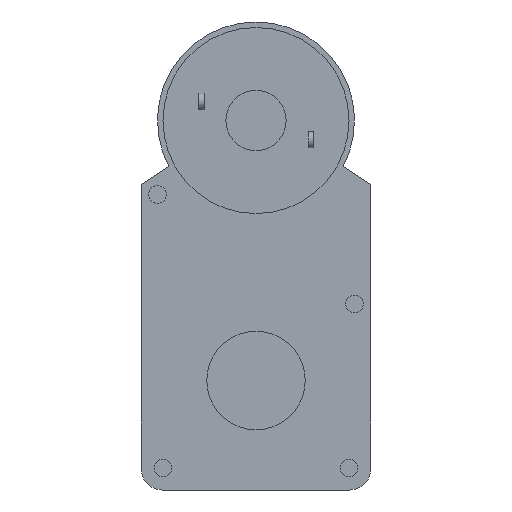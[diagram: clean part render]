
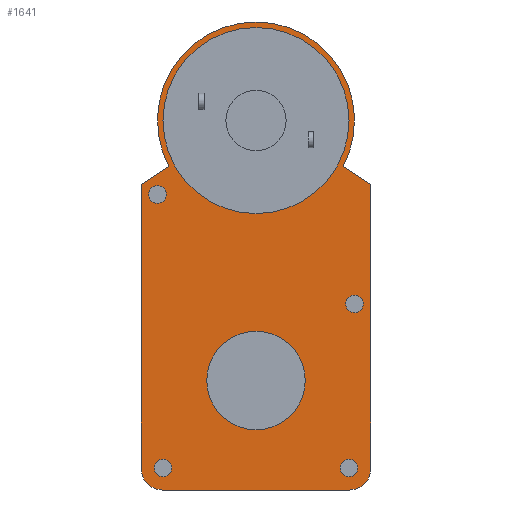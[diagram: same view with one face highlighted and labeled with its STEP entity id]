
A CAD part, front view. The second image highlights one B-rep face of the part: STEP entity #1641.
In plain terms, the highlighted planar face has unit normal (0, -1, 0).
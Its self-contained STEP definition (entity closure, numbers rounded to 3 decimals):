
#219=CARTESIAN_POINT('',(-6.,0.0,-56.5));
#220=VERTEX_POINT('',#219);
#221=CARTESIAN_POINT('',(-15.,0.0,-56.5));
#222=DIRECTION('',(0.0,1.0,0.0));
#223=DIRECTION('',(-1.0,0.0,0.0));
#224=AXIS2_PLACEMENT_3D('',#221,#222,#223);
#225=CIRCLE('',#224,9.0);
#226=EDGE_CURVE('',#220,#220,#225,.T.);
#637=CARTESIAN_POINT('',(2.,0.0,-9.));
#638=VERTEX_POINT('',#637);
#639=CARTESIAN_POINT('',(-15.,0.0,-9.));
#640=DIRECTION('',(0.0,1.0,0.0));
#641=DIRECTION('',(-1.0,0.0,0.0));
#642=AXIS2_PLACEMENT_3D('',#639,#640,#641);
#643=CIRCLE('',#642,17.0);
#644=EDGE_CURVE('',#638,#638,#643,.T.);
#837=CARTESIAN_POINT('',(-31.4,0.0,-22.5));
#838=VERTEX_POINT('',#837);
#839=CARTESIAN_POINT('',(-33.,0.0,-22.5));
#840=DIRECTION('',(0.0,1.0,0.0));
#841=DIRECTION('',(-1.0,0.0,0.0));
#842=AXIS2_PLACEMENT_3D('',#839,#840,#841);
#843=CIRCLE('',#842,1.6);
#844=EDGE_CURVE('',#838,#838,#843,.T.);
#874=CARTESIAN_POINT('',(4.6,0.0,-42.5));
#875=VERTEX_POINT('',#874);
#876=CARTESIAN_POINT('',(3.,0.0,-42.5));
#877=DIRECTION('',(0.0,1.0,0.0));
#878=DIRECTION('',(-1.0,0.0,0.0));
#879=AXIS2_PLACEMENT_3D('',#876,#877,#878);
#880=CIRCLE('',#879,1.6);
#881=EDGE_CURVE('',#875,#875,#880,.T.);
#911=CARTESIAN_POINT('',(-30.4,0.0,-72.5));
#912=VERTEX_POINT('',#911);
#913=CARTESIAN_POINT('',(-32.,0.0,-72.5));
#914=DIRECTION('',(0.0,1.0,0.0));
#915=DIRECTION('',(-1.0,0.0,0.0));
#916=AXIS2_PLACEMENT_3D('',#913,#914,#915);
#917=CIRCLE('',#916,1.6);
#918=EDGE_CURVE('',#912,#912,#917,.T.);
#948=CARTESIAN_POINT('',(3.6,0.0,-72.5));
#949=VERTEX_POINT('',#948);
#950=CARTESIAN_POINT('',(2.,0.0,-72.5));
#951=DIRECTION('',(0.0,1.0,0.0));
#952=DIRECTION('',(-1.0,0.0,0.0));
#953=AXIS2_PLACEMENT_3D('',#950,#951,#952);
#954=CIRCLE('',#953,1.6);
#955=EDGE_CURVE('',#949,#949,#954,.T.);
#985=CARTESIAN_POINT('',(-32.,0.0,-76.5));
#986=VERTEX_POINT('',#985);
#993=CARTESIAN_POINT('',(-36.,0.0,-72.5));
#994=VERTEX_POINT('',#993);
#995=CARTESIAN_POINT('',(-32.,0.0,-72.5));
#996=DIRECTION('',(0.0,1.0,0.0));
#997=DIRECTION('',(-0.707,0.0,-0.707));
#998=AXIS2_PLACEMENT_3D('',#995,#996,#997);
#999=CIRCLE('',#998,4.0);
#1000=EDGE_CURVE('',#986,#994,#999,.T.);
#1041=CARTESIAN_POINT('',(2.,0.0,-76.5));
#1042=VERTEX_POINT('',#1041);
#1049=CARTESIAN_POINT('',(2.,0.0,-76.5));
#1050=DIRECTION('',(-1.0,0.0,0.0));
#1051=VECTOR('',#1050,34.);
#1052=LINE('',#1049,#1051);
#1053=EDGE_CURVE('',#1042,#986,#1052,.T.);
#1179=CARTESIAN_POINT('',(6.,0.0,-72.5));
#1180=VERTEX_POINT('',#1179);
#1187=CARTESIAN_POINT('',(2.,0.0,-72.5));
#1188=DIRECTION('',(0.0,1.0,0.0));
#1189=DIRECTION('',(0.707,0.0,-0.707));
#1190=AXIS2_PLACEMENT_3D('',#1187,#1188,#1189);
#1191=CIRCLE('',#1190,4.0);
#1192=EDGE_CURVE('',#1180,#1042,#1191,.T.);
#1205=CARTESIAN_POINT('',(6.,0.,-20.68));
#1206=VERTEX_POINT('',#1205);
#1213=CARTESIAN_POINT('',(6.,0.0,-20.68));
#1214=DIRECTION('',(0.0,0.0,-1.0));
#1215=VECTOR('',#1214,51.82);
#1216=LINE('',#1213,#1215);
#1217=EDGE_CURVE('',#1206,#1180,#1216,.T.);
#1453=CARTESIAN_POINT('',(-30.911,0.0,-17.417));
#1454=VERTEX_POINT('',#1453);
#1463=CARTESIAN_POINT('',(0.911,0.0,-17.417));
#1464=VERTEX_POINT('',#1463);
#1465=CARTESIAN_POINT('',(-15.,0.0,-9.));
#1466=DIRECTION('',(0.0,1.0,0.0));
#1467=DIRECTION('',(-1.0,0.0,0.0));
#1468=AXIS2_PLACEMENT_3D('',#1465,#1466,#1467);
#1469=CIRCLE('',#1468,18.0);
#1470=EDGE_CURVE('',#1454,#1464,#1469,.T.);
#1553=CARTESIAN_POINT('',(6.,0.0,-20.68));
#1554=DIRECTION('',(-0.842,0.0,0.54));
#1555=VECTOR('',#1554,6.045);
#1556=LINE('',#1553,#1555);
#1557=EDGE_CURVE('',#1206,#1464,#1556,.T.);
#1573=CARTESIAN_POINT('',(-36.0,0.,-20.68));
#1574=VERTEX_POINT('',#1573);
#1581=CARTESIAN_POINT('',(-30.911,0.0,-17.417));
#1582=DIRECTION('',(-0.842,0.0,-0.54));
#1583=VECTOR('',#1582,6.045);
#1584=LINE('',#1581,#1583);
#1585=EDGE_CURVE('',#1454,#1574,#1584,.T.);
#1597=CARTESIAN_POINT('',(-36.,0.0,-72.5));
#1598=DIRECTION('',(0.0,0.0,1.0));
#1599=VECTOR('',#1598,51.82);
#1600=LINE('',#1597,#1599);
#1601=EDGE_CURVE('',#994,#1574,#1600,.T.);
#1608=CARTESIAN_POINT('',(-15.,0.0,-33.75));
#1609=DIRECTION('',(0.0,1.0,0.0));
#1610=DIRECTION('',(0.0,0.0,1.0));
#1611=AXIS2_PLACEMENT_3D('',#1608,#1609,#1610);
#1612=PLANE('',#1611);
#1613=ORIENTED_EDGE('',*,*,#1000,.F.);
#1614=ORIENTED_EDGE('',*,*,#1053,.F.);
#1615=ORIENTED_EDGE('',*,*,#1192,.F.);
#1616=ORIENTED_EDGE('',*,*,#1217,.F.);
#1617=ORIENTED_EDGE('',*,*,#1557,.T.);
#1618=ORIENTED_EDGE('',*,*,#1470,.F.);
#1619=ORIENTED_EDGE('',*,*,#1585,.T.);
#1620=ORIENTED_EDGE('',*,*,#1601,.F.);
#1621=EDGE_LOOP('',(#1613,#1614,#1615,#1616,#1617,#1618,#1619,#1620));
#1622=FACE_OUTER_BOUND('',#1621,.T.);
#1623=ORIENTED_EDGE('',*,*,#226,.T.);
#1624=EDGE_LOOP('',(#1623));
#1625=FACE_BOUND('',#1624,.T.);
#1626=ORIENTED_EDGE('',*,*,#644,.T.);
#1627=EDGE_LOOP('',(#1626));
#1628=FACE_BOUND('',#1627,.T.);
#1629=ORIENTED_EDGE('',*,*,#844,.T.);
#1630=EDGE_LOOP('',(#1629));
#1631=FACE_BOUND('',#1630,.T.);
#1632=ORIENTED_EDGE('',*,*,#881,.T.);
#1633=EDGE_LOOP('',(#1632));
#1634=FACE_BOUND('',#1633,.T.);
#1635=ORIENTED_EDGE('',*,*,#918,.T.);
#1636=EDGE_LOOP('',(#1635));
#1637=FACE_BOUND('',#1636,.T.);
#1638=ORIENTED_EDGE('',*,*,#955,.T.);
#1639=EDGE_LOOP('',(#1638));
#1640=FACE_BOUND('',#1639,.T.);
#1641=ADVANCED_FACE('',(#1622,#1625,#1628,#1631,#1634,#1637,#1640),#1612,.F.);
